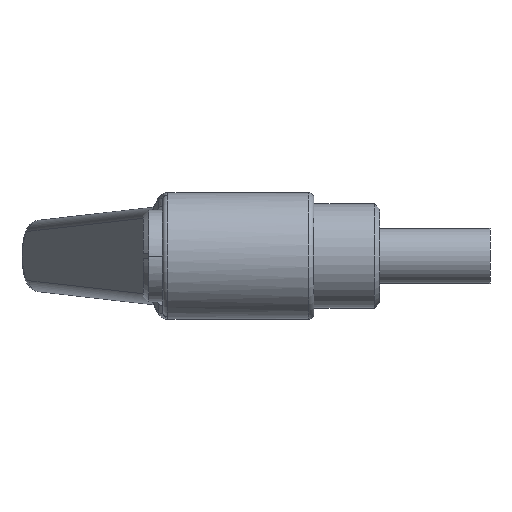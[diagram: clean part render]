
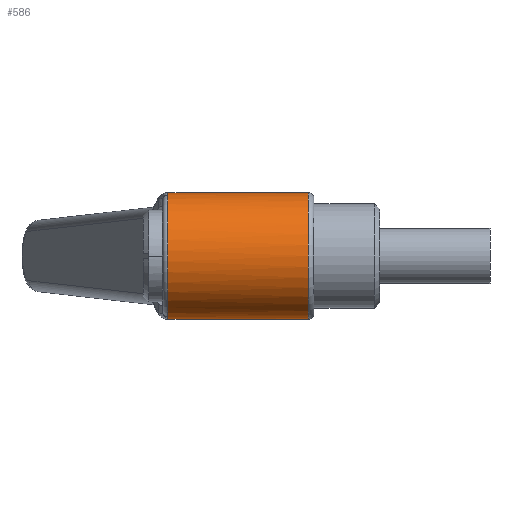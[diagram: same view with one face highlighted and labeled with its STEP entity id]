
A CAD part, left-side view. The second image highlights one B-rep face of the part: STEP entity #586.
In plain terms, the highlighted cylindrical face has radius 11.5 mm (diameter 23 mm), a partial arc.
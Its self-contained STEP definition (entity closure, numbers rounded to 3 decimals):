
#1 = CARTESIAN_POINT ( 'NONE',  ( -2.046, -1., -11.364 ) ) ;
#10 = DIRECTION ( 'NONE',  ( 0., 0., 1. ) ) ;
#107 = CIRCLE ( 'NONE', #1364, 11.5 ) ;
#108 = CIRCLE ( 'NONE', #1365, 11.5 ) ;
#122 = CARTESIAN_POINT ( 'NONE',  ( -3.052, -1., -11.088 ) ) ;
#161 = DIRECTION ( 'NONE',  ( 0., -1., 0. ) ) ;
#288 = VECTOR ( 'NONE', #1962, 1000. ) ;
#304 = LINE ( 'NONE', #1869, #288 ) ;
#429 = CARTESIAN_POINT ( 'NONE',  ( 0., 27.5, 0. ) ) ;
#482 = CARTESIAN_POINT ( 'NONE',  ( -1.029, -0.924, 11.465 ) ) ;
#484 = DIRECTION ( 'NONE',  ( 0., -1., 0. ) ) ;
#487 = CARTESIAN_POINT ( 'NONE',  ( 0., -0.814, -11.5 ) ) ;
#497 = LINE ( 'NONE', #911, #514 ) ;
#509 = DIRECTION ( 'NONE',  ( 0., 0., -1. ) ) ;
#513 = DIRECTION ( 'NONE',  ( 0., -1., 0. ) ) ;
#514 = VECTOR ( 'NONE', #513, 1000. ) ;
#527 = B_SPLINE_CURVE_WITH_KNOTS ( 'NONE', 3,
 ( #2007, #1, #1507, #487 ),
 .UNSPECIFIED., .F., .F.,
 ( 4, 4 ),
 ( 0., 0.003 ),
 .UNSPECIFIED. ) ;
#549 = CYLINDRICAL_SURFACE ( 'NONE', #1509, 11.5 ) ;
#572 = FACE_OUTER_BOUND ( 'NONE', #1215, .T. ) ;
#586 = ADVANCED_FACE ( 'NONE', ( #572 ), #549, .T. ) ;
#653 = CARTESIAN_POINT ( 'NONE',  ( -2.551, -1., 11.225 ) ) ;
#760 = ORIENTED_EDGE ( 'NONE', *, *, #2152, .T. ) ;
#896 = B_SPLINE_CURVE_WITH_KNOTS ( 'NONE', 3,
 ( #2170, #1130, #482, #1694, #653, #1842 ),
 .UNSPECIFIED., .F., .F.,
 ( 4, 2, 4 ),
 ( 0.003, 0.005, 0.006 ),
 .UNSPECIFIED. ) ;
#906 = CARTESIAN_POINT ( 'NONE',  ( 0., -0.814, -11.5 ) ) ;
#911 = CARTESIAN_POINT ( 'NONE',  ( 0., 27.5, 11.5 ) ) ;
#979 = DIRECTION ( 'NONE',  ( 0., 1., 0. ) ) ;
#1051 = VERTEX_POINT ( 'NONE', #1996 ) ;
#1101 = VERTEX_POINT ( 'NONE', #1981 ) ;
#1130 = CARTESIAN_POINT ( 'NONE',  ( -0.514, -0.877, 11.5 ) ) ;
#1137 = CARTESIAN_POINT ( 'NONE',  ( 0., -1., 0. ) ) ;
#1209 = ORIENTED_EDGE ( 'NONE', *, *, #1677, .F. ) ;
#1212 = ORIENTED_EDGE ( 'NONE', *, *, #2144, .T. ) ;
#1214 = ORIENTED_EDGE ( 'NONE', *, *, #2147, .T. ) ;
#1215 = EDGE_LOOP ( 'NONE', ( #1209, #1212, #1214, #760, #1218, #1221 ) ) ;
#1218 = ORIENTED_EDGE ( 'NONE', *, *, #2038, .T. ) ;
#1221 = ORIENTED_EDGE ( 'NONE', *, *, #2155, .T. ) ;
#1222 = VERTEX_POINT ( 'NONE', #1891 ) ;
#1285 = DIRECTION ( 'NONE',  ( 0., 0., -1. ) ) ;
#1364 = AXIS2_PLACEMENT_3D ( 'NONE', #2011, #979, #10 ) ;
#1365 = AXIS2_PLACEMENT_3D ( 'NONE', #1137, #161, #1285 ) ;
#1377 = VERTEX_POINT ( 'NONE', #1482 ) ;
#1482 = CARTESIAN_POINT ( 'NONE',  ( 0., -0.814, 11.5 ) ) ;
#1507 = CARTESIAN_POINT ( 'NONE',  ( -1.028, -0.94, -11.5 ) ) ;
#1509 = AXIS2_PLACEMENT_3D ( 'NONE', #429, #484, #509 ) ;
#1670 = VERTEX_POINT ( 'NONE', #906 ) ;
#1677 = EDGE_CURVE ( 'NONE', #1377, #1101, #497, .T. ) ;
#1694 = CARTESIAN_POINT ( 'NONE',  ( -2.047, -0.985, 11.328 ) ) ;
#1788 = VERTEX_POINT ( 'NONE', #122 ) ;
#1842 = CARTESIAN_POINT ( 'NONE',  ( -3.052, -1., 11.088 ) ) ;
#1869 = CARTESIAN_POINT ( 'NONE',  ( 0., 27.5, -11.5 ) ) ;
#1891 = CARTESIAN_POINT ( 'NONE',  ( -3.052, -1., 11.088 ) ) ;
#1962 = DIRECTION ( 'NONE',  ( 0., -1., 0. ) ) ;
#1981 = CARTESIAN_POINT ( 'NONE',  ( 0., -26.5, 11.5 ) ) ;
#1996 = CARTESIAN_POINT ( 'NONE',  ( 0., -26.5, -11.5 ) ) ;
#2007 = CARTESIAN_POINT ( 'NONE',  ( -3.052, -1., -11.088 ) ) ;
#2011 = CARTESIAN_POINT ( 'NONE',  ( 0., -26.5, 0. ) ) ;
#2038 = EDGE_CURVE ( 'NONE', #1670, #1051, #304, .T. ) ;
#2144 = EDGE_CURVE ( 'NONE', #1377, #1222, #896, .T. ) ;
#2147 = EDGE_CURVE ( 'NONE', #1222, #1788, #108, .T. ) ;
#2152 = EDGE_CURVE ( 'NONE', #1788, #1670, #527, .T. ) ;
#2155 = EDGE_CURVE ( 'NONE', #1051, #1101, #107, .T. ) ;
#2170 = CARTESIAN_POINT ( 'NONE',  ( 0., -0.814, 11.5 ) ) ;
